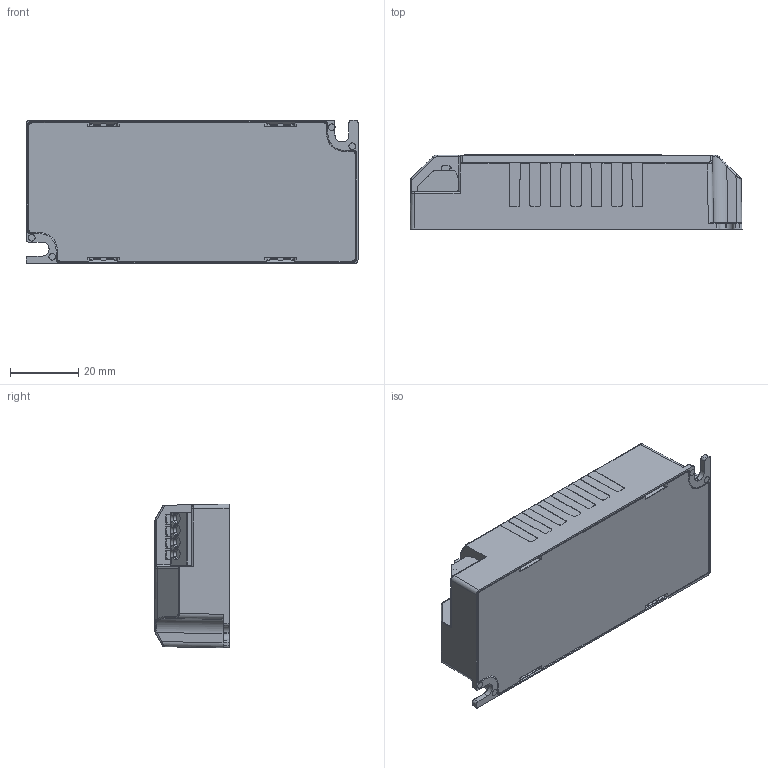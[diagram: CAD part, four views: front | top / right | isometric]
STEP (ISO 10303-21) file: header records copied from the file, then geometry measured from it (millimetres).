
FILE_DESCRIPTION(('FreeCAD Model'),'2;1');
FILE_NAME('H:/EB product maintenance/Project/3D mechanics/Eagle/Proflat_DALI_BI_3.step','2020-02-14T09:09:14',('Author') ,(''),'Open CASCADE STEP processor 7.3','FreeCAD','Unknown');
FILE_SCHEMA(('AUTOMOTIVE_DESIGN { 1 0 10303 214 1 1 1 1 }'));
Length unit declared in the file: millimetre
Products named in the file (4): Proflat_DALI_BI; BOTTOM; COVER; PCB_and_connectors
Assembly tree (3 placements, depth 2):
  Proflat_DALI_BI
    BOTTOM
    COVER
    PCB_and_connectors
Bounding box: 97.4 x 21.81 x 42.2 mm (x, y, z)
Volume: 25291.3 mm3; surface area: 39077.8 mm2
Topology: 9 solids, 9 shells, 1964 faces, 12388 edges, 32287 vertices
Faces by surface type: plane 875, cylinder 562, bspline 501, sphere 14, cone 12
Entity records: 280077 total; most frequent: CARTESIAN_POINT 140138, DIRECTION 21158, LINE 13942, VECTOR 13942, ORIENTED_EDGE 10252, PCURVE 10252, DEFINITIONAL_REPRESENTATION 10252, GEOMETRIC_CURVE_SET 7251
